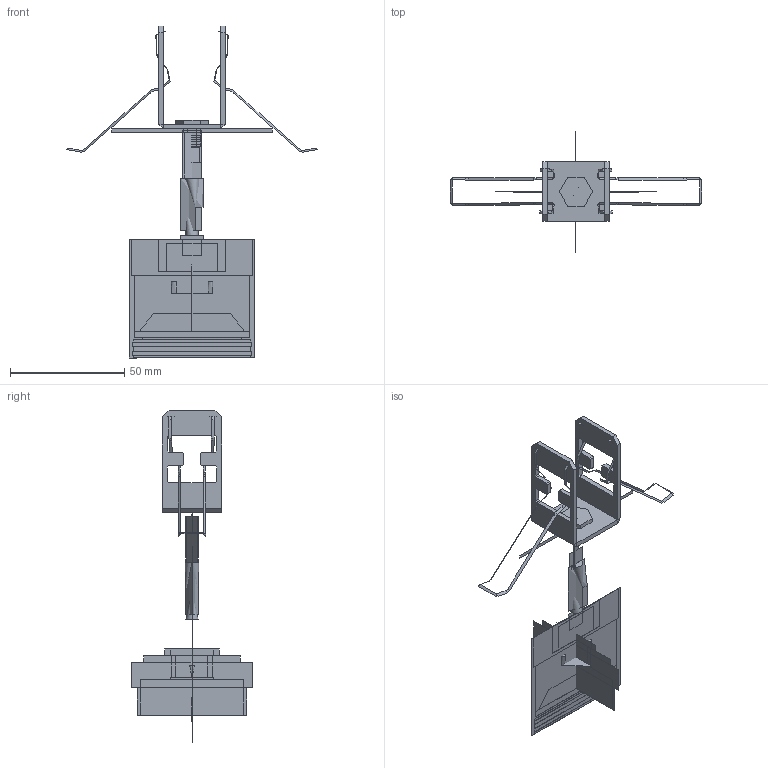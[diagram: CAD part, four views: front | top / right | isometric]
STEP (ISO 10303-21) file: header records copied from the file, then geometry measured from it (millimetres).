
FILE_DESCRIPTION(/* description */ (''),/* implementation_level */ '2;1');
FILE_NAME(/* name */ 'Mark R6',/* time_stamp */ '2025-06-18T18:00:47+02:00',/* author */ (''),/* organization */ (''),/* preprocessor_version */ 'ST-DEVELOPER v15',/* originating_system */ '',/* authorisation */ '');
FILE_SCHEMA (('CONFIG_CONTROL_DESIGN'));
Length unit declared in the file: millimetre
Products named in the file (1): Document
Bounding box: 110.21 x 52.5 x 145.2 mm (x, y, z)
Volume: 58428.7 mm3; surface area: 59267.4 mm2
Topology: 15 solids, 79 shells, 385 faces, 972 edges, 600 vertices
Faces by surface type: bspline 385
Entity records: 32995 total; most frequent: CARTESIAN_POINT 22118, B_SPLINE_CURVE_WITH_KNOTS 1844, ORIENTED_EDGE 1664, PCURVE 1664, DEFINITIONAL_REPRESENTATION 1664, SURFACE_CURVE 952, EDGE_CURVE 952, VERTEX_POINT 596
